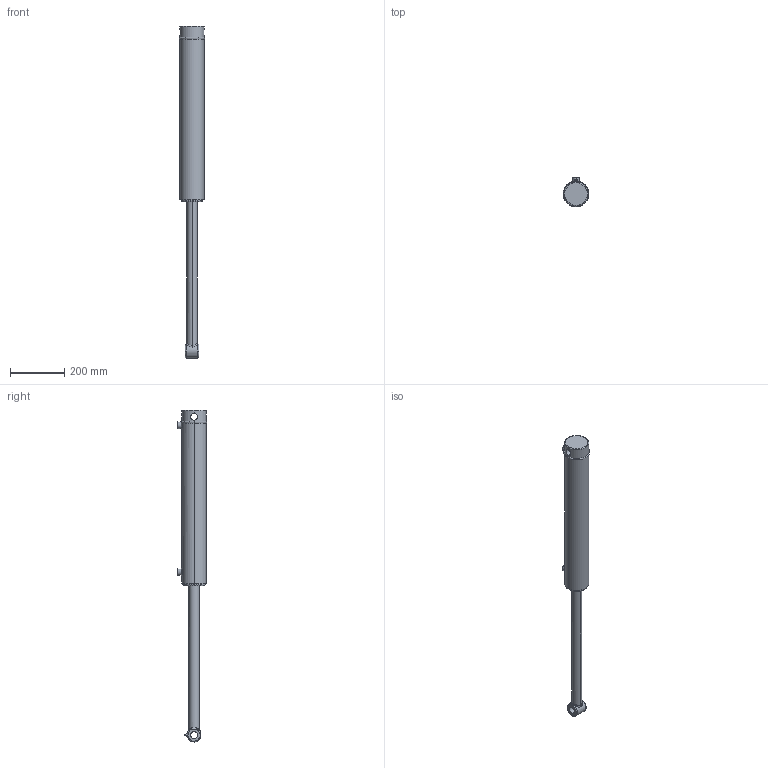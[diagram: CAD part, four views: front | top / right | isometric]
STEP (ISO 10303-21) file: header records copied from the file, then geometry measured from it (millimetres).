
FILE_DESCRIPTION (( 'STEP AP203' ), '1' );
FILE_NAME ('SB-C3001550x508 (20) extended.STEP', '2014-11-19T21:38:56', ( '' ), ( '' ), 'SwSTEP 2.0', 'SolidWorks 2014', '' );
FILE_SCHEMA (( 'CONFIG_CONTROL_DESIGN' ));
Length unit declared in the file: millimetre
Products named in the file (7): SB-C3001550x508 (20) extended; SB-C300150x508 (20) BODY; 3 inch circlip; SB-C3001550x508 (20) body; 20 SPARE; 18 NPT GREASE NIPPLE; SPARE 20
Assembly tree (6 placements, depth 3):
  SB-C3001550x508 (20) extended
    SB-C3001550x508 (20) body
      SB-C300150x508 (20) BODY
      3 inch circlip
    SPARE 20
      20 SPARE
      18 NPT GREASE NIPPLE
Bounding box: 94.9 x 109.9 x 1221.4 mm (x, y, z)
Volume: 4435152.3 mm3; surface area: 325610.1 mm2
Topology: 4 solids, 4 shells, 133 faces, 306 edges, 190 vertices
Faces by surface type: cylinder 51, plane 29, cone 22, bspline 18, torus 11, sphere 2
Entity records: 10452 total; most frequent: CARTESIAN_POINT 6772, DIRECTION 638, ORIENTED_EDGE 604, EDGE_CURVE 302, AXIS2_PLACEMENT_3D 270, VERTEX_POINT 190, EDGE_LOOP 158, CIRCLE 144
